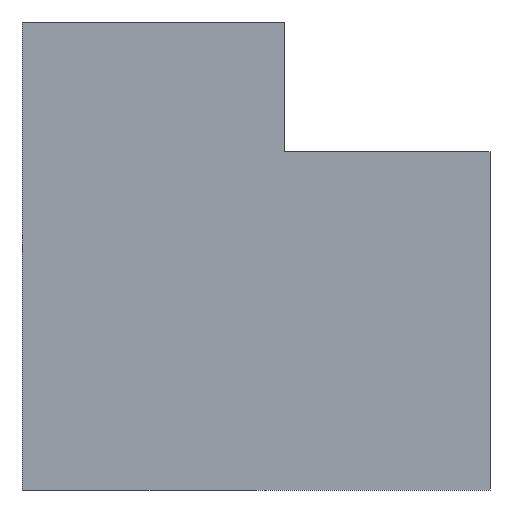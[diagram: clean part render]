
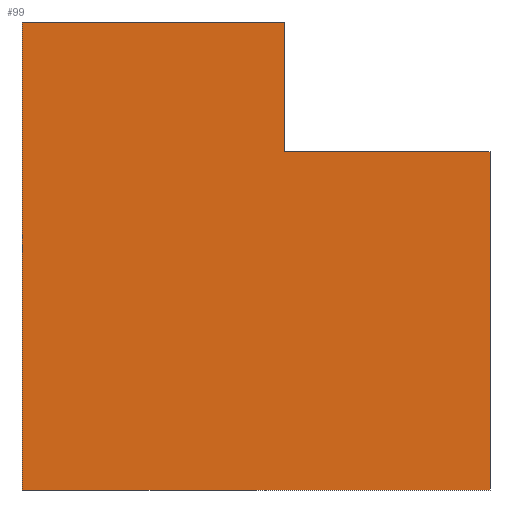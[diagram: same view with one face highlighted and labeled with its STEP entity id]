
A CAD part, left-side view. The second image highlights one B-rep face of the part: STEP entity #99.
In plain terms, the highlighted planar face has unit normal (-1, 0, 0).
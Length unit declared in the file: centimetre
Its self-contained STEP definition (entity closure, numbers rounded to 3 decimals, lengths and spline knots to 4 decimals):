
#8 = EDGE_CURVE ( 'NONE', #228, #170, #212, .T. ) ;
#10 = DIRECTION ( 'NONE',  ( 0., -1., 0. ) ) ;
#11 = LINE ( 'NONE', #244, #69 ) ;
#15 = CARTESIAN_POINT ( 'NONE',  ( 0., 1000., 0. ) ) ;
#32 = ORIENTED_EDGE ( 'NONE', *, *, #189, .T. ) ;
#35 = VECTOR ( 'NONE', #94, 100. ) ;
#44 = DIRECTION ( 'NONE',  ( 0., -1., 0. ) ) ;
#48 = CARTESIAN_POINT ( 'NONE',  ( 0., 0., 0. ) ) ;
#49 = EDGE_CURVE ( 'NONE', #200, #148, #123, .T. ) ;
#69 = VECTOR ( 'NONE', #44, 100. ) ;
#72 = LINE ( 'NONE', #215, #380 ) ;
#79 = CARTESIAN_POINT ( 'NONE',  ( 0., 1000., 1000. ) ) ;
#85 = DIRECTION ( 'NONE',  ( 0., 0., -1. ) ) ;
#86 = VERTEX_POINT ( 'NONE', #15 ) ;
#94 = DIRECTION ( 'NONE',  ( 0., 0., -1. ) ) ;
#95 = EDGE_CURVE ( 'NONE', #351, #170, #72, .T. ) ;
#99 = ADVANCED_FACE ( 'NONE', ( #276 ), #308, .F. ) ;
#115 = ORIENTED_EDGE ( 'NONE', *, *, #316, .T. ) ;
#123 = LINE ( 'NONE', #363, #35 ) ;
#134 = CARTESIAN_POINT ( 'NONE',  ( 0., 1000., 1000. ) ) ;
#148 = VERTEX_POINT ( 'NONE', #48 ) ;
#152 = ORIENTED_EDGE ( 'NONE', *, *, #370, .T. ) ;
#160 = CARTESIAN_POINT ( 'NONE',  ( 0., 438.7177, 1000. ) ) ;
#170 = VERTEX_POINT ( 'NONE', #160 ) ;
#189 = EDGE_CURVE ( 'NONE', #86, #148, #11, .T. ) ;
#200 = VERTEX_POINT ( 'NONE', #219 ) ;
#204 = EDGE_LOOP ( 'NONE', ( #330, #115, #312, #268, #152, #32 ) ) ;
#212 = LINE ( 'NONE', #272, #362 ) ;
#215 = CARTESIAN_POINT ( 'NONE',  ( 0., 1000., 1000. ) ) ;
#219 = CARTESIAN_POINT ( 'NONE',  ( 0., 0., 723.0639 ) ) ;
#227 = CARTESIAN_POINT ( 'NONE',  ( 0., 1000., 1000. ) ) ;
#228 = VERTEX_POINT ( 'NONE', #280 ) ;
#244 = CARTESIAN_POINT ( 'NONE',  ( 0., 1000., 0. ) ) ;
#251 = DIRECTION ( 'NONE',  ( 1., 0., 0. ) ) ;
#267 = VECTOR ( 'NONE', #85, 100. ) ;
#268 = ORIENTED_EDGE ( 'NONE', *, *, #95, .F. ) ;
#270 = DIRECTION ( 'NONE',  ( 0., 0., 1. ) ) ;
#272 = CARTESIAN_POINT ( 'NONE',  ( 0., 438.7177, 723.0639 ) ) ;
#276 = FACE_OUTER_BOUND ( 'NONE', #204, .T. ) ;
#280 = CARTESIAN_POINT ( 'NONE',  ( 0., 438.7177, 723.0639 ) ) ;
#286 = LINE ( 'NONE', #376, #321 ) ;
#302 = AXIS2_PLACEMENT_3D ( 'NONE', #134, #251, #340 ) ;
#308 = PLANE ( 'NONE',  #302 ) ;
#312 = ORIENTED_EDGE ( 'NONE', *, *, #8, .T. ) ;
#315 = LINE ( 'NONE', #227, #267 ) ;
#316 = EDGE_CURVE ( 'NONE', #200, #228, #286, .T. ) ;
#321 = VECTOR ( 'NONE', #354, 100. ) ;
#330 = ORIENTED_EDGE ( 'NONE', *, *, #49, .F. ) ;
#340 = DIRECTION ( 'NONE',  ( 0., 0., -1. ) ) ;
#351 = VERTEX_POINT ( 'NONE', #79 ) ;
#354 = DIRECTION ( 'NONE',  ( 0., 1., 0. ) ) ;
#362 = VECTOR ( 'NONE', #270, 100. ) ;
#363 = CARTESIAN_POINT ( 'NONE',  ( 0., 0., 1000. ) ) ;
#370 = EDGE_CURVE ( 'NONE', #351, #86, #315, .T. ) ;
#376 = CARTESIAN_POINT ( 'NONE',  ( 0., 0., 723.0639 ) ) ;
#380 = VECTOR ( 'NONE', #10, 100. ) ;
